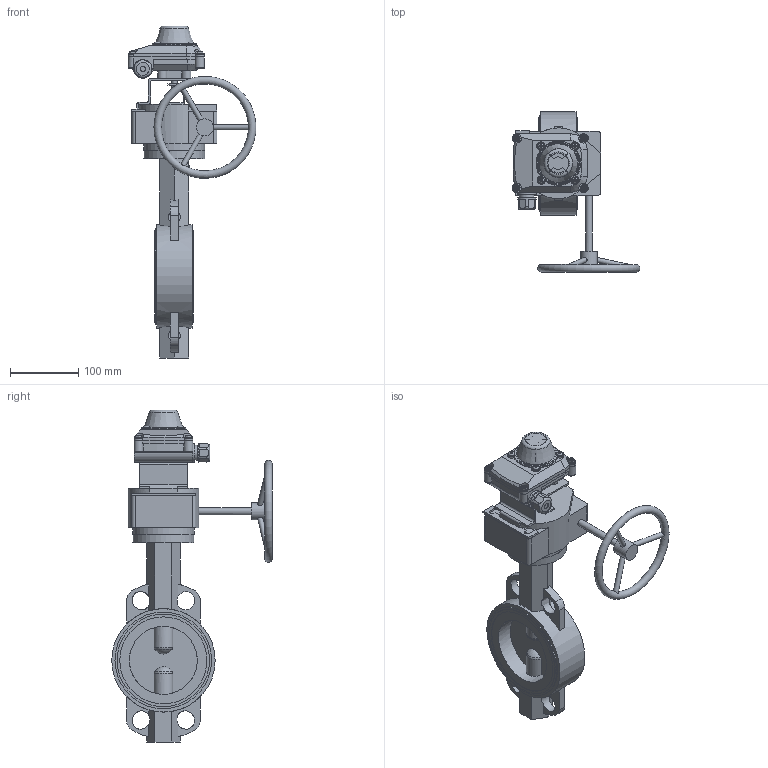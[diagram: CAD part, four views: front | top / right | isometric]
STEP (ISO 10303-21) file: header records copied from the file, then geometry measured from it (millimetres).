
FILE_DESCRIPTION(('STEP AP203'), '1');
FILE_NAME('3D_200-100-16-Ï.02', '', ('UNSPECIFIED'), ('UNSPECIFIED'), 'C3D Converter', 'C3D Toolkit', '');
FILE_SCHEMA(('CONFIG_CONTROL_DESIGN'));
Length unit declared in the file: millimetre
Bounding box: 187.98 x 235.98 x 488 mm (x, y, z)
Volume: 2144741 mm3; surface area: 310487.2 mm2
Topology: 4 solids, 7 shells, 1509 faces, 4341 edges, 2904 vertices
Faces by surface type: plane 1216, cylinder 182, torus 54, cone 45, bspline 12
Full cylindrical faces by diameter (mm): 4.917 x4, 6 x8, 7.368 x3, 8 x11, 10 x8, 10.026 x1, 13.5 x2, 16 x3, 17.294 x1, 18 x1, 22 x1, 25.064 x1, 27 x2, 32 x1, 61.5 x1, 90 x2, 100 x2, 128 x2, 136 x2, 142 x2, 152 x1
Entity records: 73933 total; most frequent: CARTESIAN_POINT 22447, ORIENTED_EDGE 8500, DIRECTION 7617, EDGE_CURVE 4250, LINE 3281, VECTOR 3281, VERTEX_POINT 2901, AXIS2_PLACEMENT_3D 2168
